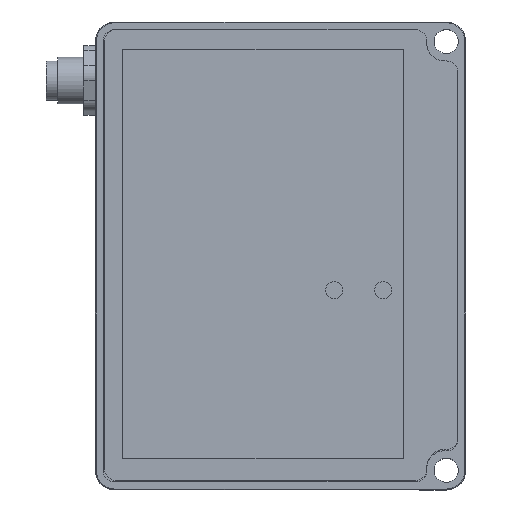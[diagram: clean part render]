
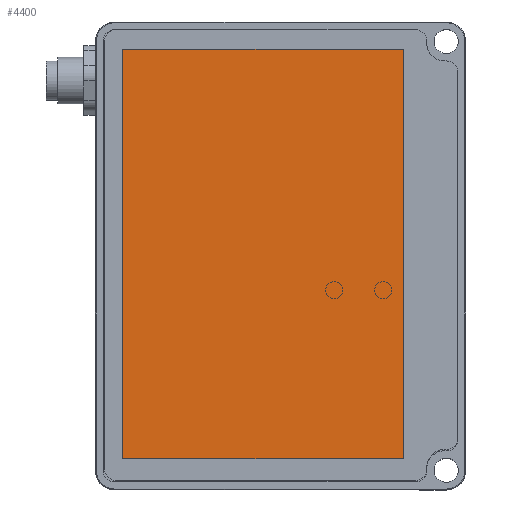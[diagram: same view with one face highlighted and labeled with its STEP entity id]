
A CAD part, top view. The second image highlights one B-rep face of the part: STEP entity #4400.
In plain terms, the highlighted planar face has unit normal (0, 0, 1).
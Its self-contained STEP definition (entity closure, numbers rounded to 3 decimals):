
#4270=CARTESIAN_POINT('',(85.67,10.426,0.05));
#4271=VERTEX_POINT('',#4270);
#4272=CARTESIAN_POINT('',(85.67,-61.574,0.05));
#4273=VERTEX_POINT('',#4272);
#4274=CARTESIAN_POINT('',(85.67,10.426,0.05));
#4275=DIRECTION('',(0.0,-1.0,0.0));
#4276=VECTOR('',#4275,72.);
#4277=LINE('',#4274,#4276);
#4278=EDGE_CURVE('',#4271,#4273,#4277,.T.);
#4310=CARTESIAN_POINT('',(-19.33,-61.574,0.05));
#4311=VERTEX_POINT('',#4310);
#4312=CARTESIAN_POINT('',(85.67,-61.574,0.05));
#4313=DIRECTION('',(-1.0,0.0,0.0));
#4314=VECTOR('',#4313,105.);
#4315=LINE('',#4312,#4314);
#4316=EDGE_CURVE('',#4273,#4311,#4315,.T.);
#4341=CARTESIAN_POINT('',(-19.33,10.426,0.05));
#4342=VERTEX_POINT('',#4341);
#4343=CARTESIAN_POINT('',(-19.33,-61.574,0.05));
#4344=DIRECTION('',(0.0,1.0,0.0));
#4345=VECTOR('',#4344,72.0);
#4346=LINE('',#4343,#4345);
#4347=EDGE_CURVE('',#4311,#4342,#4346,.T.);
#4372=CARTESIAN_POINT('',(-19.33,10.426,0.05));
#4373=DIRECTION('',(1.0,0.0,0.0));
#4374=VECTOR('',#4373,105.);
#4375=LINE('',#4372,#4374);
#4376=EDGE_CURVE('',#4342,#4271,#4375,.T.);
#4389=CARTESIAN_POINT('',(33.17,-25.574,0.05));
#4390=DIRECTION('',(0.0,0.0,1.0));
#4391=DIRECTION('',(1.0,0.0,0.0));
#4392=AXIS2_PLACEMENT_3D('',#4389,#4390,#4391);
#4393=PLANE('',#4392);
#4394=ORIENTED_EDGE('',*,*,#4278,.F.);
#4395=ORIENTED_EDGE('',*,*,#4376,.F.);
#4396=ORIENTED_EDGE('',*,*,#4347,.F.);
#4397=ORIENTED_EDGE('',*,*,#4316,.F.);
#4398=EDGE_LOOP('',(#4394,#4395,#4396,#4397));
#4399=FACE_OUTER_BOUND('',#4398,.T.);
#4400=ADVANCED_FACE('',(#4399),#4393,.T.);
